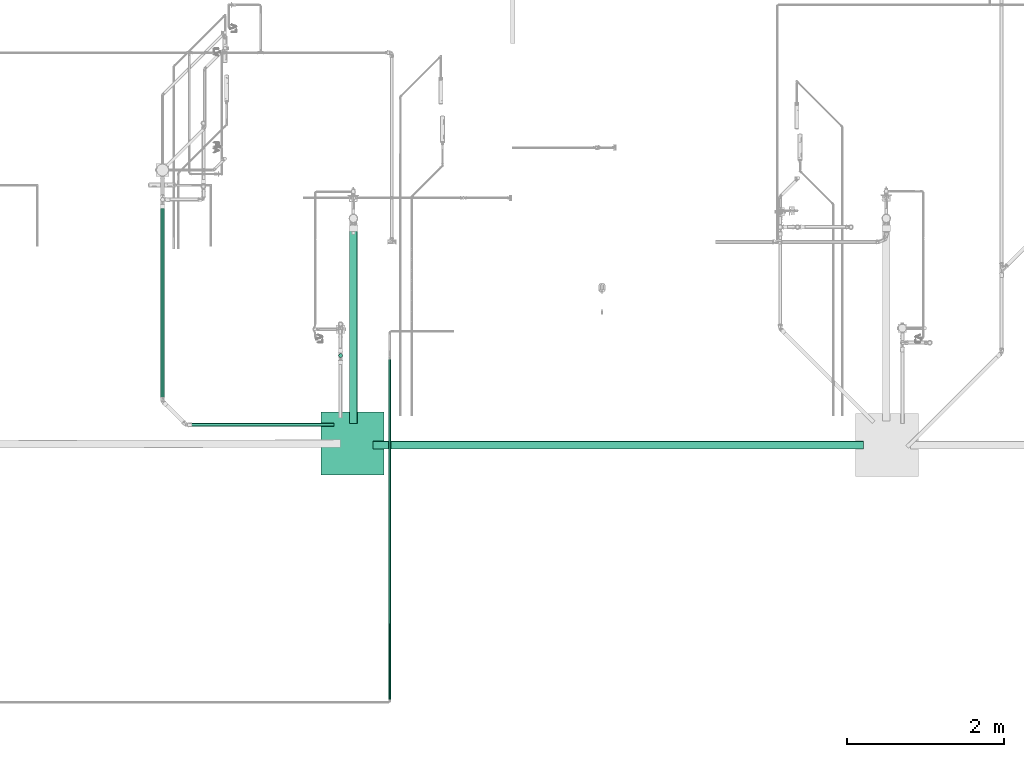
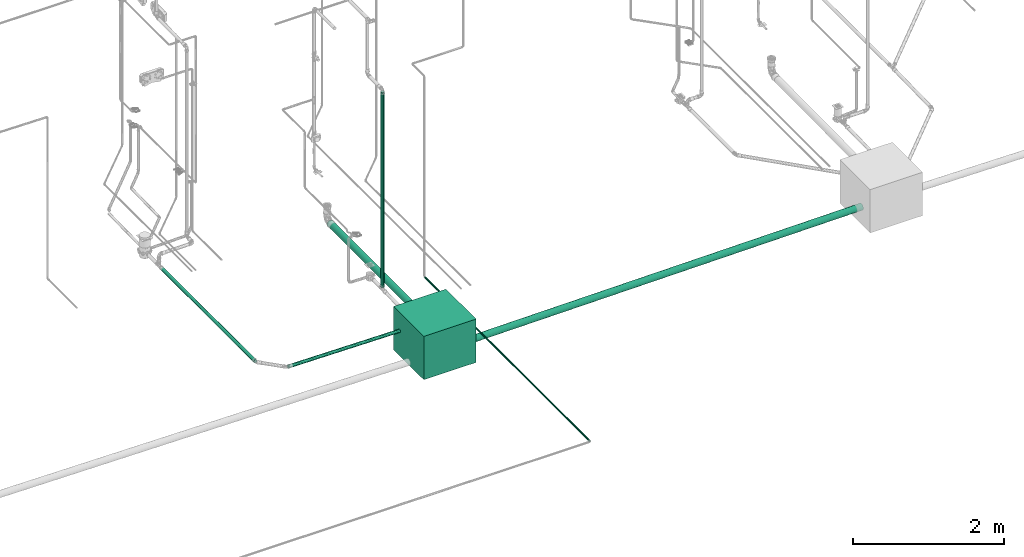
# One storey, part 3 of 589: 6 flow segments, 1 flow terminal.
"""IFC2X3 building model written with IfcOpenShell, lengths in millimetres."""

from ifc_helpers import new_model, entity, si_unit, converted_unit, derived_unit, direction, frame, frame_2d, origin, origin_2d_with_axis, place, context, subcontext, project, spatial, polyline, rectangle, circle, outline, extrude, source, transform, mapped, material, material_list, type_object, type_shapes, element, save


model = new_model("IFC2X3")

# Units and contexts
model_context = context("Model", 3, precision=0.01, world=origin(), true_north=direction((6.123031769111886e-17, 1.0)))
body_context = subcontext(model_context, "Body", "Model", "MODEL_VIEW")
ifc_project = project(units=[si_unit("LENGTHUNIT", "METRE", prefix="MILLI"), si_unit("AREAUNIT", "SQUARE_METRE"), si_unit("VOLUMEUNIT", "CUBIC_METRE"), converted_unit("PLANEANGLEUNIT", "DEGREE", entity("IfcRatioMeasure", 0.017453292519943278), si_unit("PLANEANGLEUNIT", "RADIAN"), dimensions=[0, 0, 0, 0, 0, 0, 0]), si_unit("MASSUNIT", "GRAM", prefix="KILO"), derived_unit("MASSDENSITYUNIT", [(si_unit("MASSUNIT", "GRAM", prefix="KILO"), 1), (si_unit("LENGTHUNIT", "METRE"), -3)]), derived_unit("IONCONCENTRATIONUNIT", [(si_unit("MASSUNIT", "GRAM", prefix="KILO"), 1), (si_unit("LENGTHUNIT", "METRE"), -3)]), derived_unit("MOMENTOFINERTIAUNIT", [(si_unit("LENGTHUNIT", "METRE"), 4)]), si_unit("TIMEUNIT", "SECOND"), si_unit("FREQUENCYUNIT", "HERTZ"), si_unit("THERMODYNAMICTEMPERATUREUNIT", "DEGREE_CELSIUS"), derived_unit("THERMALTRANSMITTANCEUNIT", [(si_unit("MASSUNIT", "GRAM", prefix="KILO"), 1), (si_unit("THERMODYNAMICTEMPERATUREUNIT", "KELVIN"), -1), (si_unit("TIMEUNIT", "SECOND"), -3)]), derived_unit("THERMALCONDUCTANCEUNIT", [(si_unit("MASSUNIT", "GRAM", prefix="KILO"), 1), (si_unit("THERMODYNAMICTEMPERATUREUNIT", "KELVIN"), -1), (si_unit("TIMEUNIT", "SECOND"), -3), (si_unit("LENGTHUNIT", "METRE"), 1)]), derived_unit("VOLUMETRICFLOWRATEUNIT", [(si_unit("LENGTHUNIT", "METRE"), 3), (si_unit("TIMEUNIT", "SECOND"), -1)]), derived_unit("MASSFLOWRATEUNIT", [(si_unit("MASSUNIT", "GRAM", prefix="KILO"), 1), (si_unit("TIMEUNIT", "SECOND"), -1)]), derived_unit("ROTATIONALFREQUENCYUNIT", [(si_unit("TIMEUNIT", "SECOND"), -1)]), si_unit("ELECTRICCURRENTUNIT", "AMPERE"), si_unit("ELECTRICVOLTAGEUNIT", "VOLT"), si_unit("POWERUNIT", "WATT"), si_unit("FORCEUNIT", "NEWTON", prefix="KILO"), si_unit("ILLUMINANCEUNIT", "LUX"), si_unit("LUMINOUSFLUXUNIT", "LUMEN"), si_unit("LUMINOUSINTENSITYUNIT", "CANDELA"), derived_unit("USERDEFINED", [(si_unit("MASSUNIT", "GRAM", prefix="KILO"), -1), (si_unit("LENGTHUNIT", "METRE"), -2), (si_unit("TIMEUNIT", "SECOND"), 3), (si_unit("LUMINOUSFLUXUNIT", "LUMEN"), 1)]), derived_unit("USERDEFINED", [(si_unit("MASSUNIT", "GRAM", prefix="KILO"), 1), (si_unit("TIMEUNIT", "SECOND"), -3), (si_unit("LENGTHUNIT", "METRE"), 3), (si_unit("ELECTRICCURRENTUNIT", "AMPERE"), -2)]), derived_unit("SOUNDPOWERUNIT", [(si_unit("MASSUNIT", "GRAM", prefix="KILO"), 1), (si_unit("TIMEUNIT", "SECOND"), -3), (si_unit("LENGTHUNIT", "METRE"), 2)]), derived_unit("SOUNDPRESSUREUNIT", [(si_unit("MASSUNIT", "GRAM", prefix="KILO"), 1), (si_unit("LENGTHUNIT", "METRE"), -1), (si_unit("TIMEUNIT", "SECOND"), -2)]), derived_unit("LINEARVELOCITYUNIT", [(si_unit("LENGTHUNIT", "METRE"), 1), (si_unit("TIMEUNIT", "SECOND"), -1)]), si_unit("PRESSUREUNIT", "PASCAL"), derived_unit("USERDEFINED", [(si_unit("MASSUNIT", "GRAM", prefix="KILO"), 1), (si_unit("LENGTHUNIT", "METRE"), -2), (si_unit("TIMEUNIT", "SECOND"), -2)]), derived_unit("LINEARFORCEUNIT", [(si_unit("MASSUNIT", "GRAM", prefix="KILO"), 1), (si_unit("TIMEUNIT", "SECOND"), -2)]), derived_unit("PLANARFORCEUNIT", [(si_unit("MASSUNIT", "GRAM", prefix="KILO"), 1), (si_unit("LENGTHUNIT", "METRE"), -1), (si_unit("TIMEUNIT", "SECOND"), -2)]), derived_unit("SPECIFICHEATCAPACITYUNIT", [(si_unit("THERMODYNAMICTEMPERATUREUNIT", "KELVIN"), -1), (si_unit("LENGTHUNIT", "METRE"), 2), (si_unit("TIMEUNIT", "SECOND"), -2)]), derived_unit("HEATINGVALUEUNIT", [(si_unit("LENGTHUNIT", "METRE"), 2), (si_unit("TIMEUNIT", "SECOND"), -2)]), derived_unit("VAPORPERMEABILITYUNIT", [(si_unit("LENGTHUNIT", "METRE"), -1), (si_unit("TIMEUNIT", "SECOND"), 1)]), derived_unit("DYNAMICVISCOSITYUNIT", [(si_unit("MASSUNIT", "GRAM", prefix="KILO"), 1), (si_unit("TIMEUNIT", "SECOND"), -1), (si_unit("LENGTHUNIT", "METRE"), -1)]), derived_unit("THERMALEXPANSIONCOEFFICIENTUNIT", [(si_unit("THERMODYNAMICTEMPERATUREUNIT", "KELVIN"), -1)]), derived_unit("MODULUSOFELASTICITYUNIT", [(si_unit("MASSUNIT", "GRAM", prefix="KILO"), 1), (si_unit("LENGTHUNIT", "METRE"), -1), (si_unit("TIMEUNIT", "SECOND"), -2)]), derived_unit("ISOTHERMALMOISTURECAPACITYUNIT", [(si_unit("LENGTHUNIT", "METRE"), 3), (si_unit("MASSUNIT", "GRAM", prefix="KILO"), -1)]), derived_unit("MOISTUREDIFFUSIVITYUNIT", [(si_unit("TIMEUNIT", "SECOND"), -1), (si_unit("LENGTHUNIT", "METRE"), 2)])], contexts=[model_context])

# Site, building, storey
site_placement = place(None, origin())
site = spatial("IfcSite", under=ifc_project, at=site_placement, Name="Default", CompositionType="ELEMENT")
building_placement = place(site_placement, origin())
building = spatial("IfcBuilding", under=site, at=building_placement, CompositionType="ELEMENT")
storey_placement = place(building_placement, frame((0.0, 0.0, 100.0)))
storey = spatial("IfcBuildingStorey", under=building, at=storey_placement, Name="TÉRREO", CompositionType="ELEMENT", Elevation=100.0)

# Flow segments
pipe_segment_type_1 = type_object("IfcPipeSegmentType", Name="Tipos de tubos:PVC Esgoto Série Normal", PredefinedType="NOTDEFINED")
flow_segment_1_placement = place(storey_placement, origin())
element("IfcFlowSegment", 1, at=flow_segment_1_placement, inside=storey, type_object=pipe_segment_type_1, Name="Tipos de tubos:PVC Esgoto Série Normal", ObjectType="Tipos de tubos:PVC Esgoto Série Normal", context=body_context, shape_type="SweptSolid", body=[
    extrude(circle(Radius=50.0, at=frame_2d((0.0, -5.408006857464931e-15), x_axis=(1.0, 0.0))), frame((2267.440530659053, -11197.531283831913, -612.3274411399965), z_axis=(0.999950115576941, 0.0, 0.009988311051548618), x_axis=(0.0, 1.0, 0.0)), (0.0, 0.0, 1.0), 6240.038062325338),
])
flow_segment_2_placement = place(storey_placement, origin())
element("IfcFlowSegment", 2, at=flow_segment_2_placement, inside=storey, type_object=pipe_segment_type_1, Name="Tipos de tubos:PVC Esgoto Série Normal", ObjectType="Tipos de tubos:PVC Esgoto Série Normal", context=body_context, shape_type="SweptSolid", body=[
    extrude(circle(Radius=50.0, at=frame_2d((2.70716782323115e-13, -3.3839179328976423e-14), x_axis=(1.0, 0.0))), frame((2018.1304460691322, -10918.899506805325, -260.1456928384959), z_axis=(-3.3101656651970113e-06, 0.999987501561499, 0.0049996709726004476), x_axis=(-1.0, -3.3102070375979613e-06, 0.0)), (0.0, 0.0, 1.0), 2524.295897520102),
])
flow_segment_3_placement = place(storey_placement, origin())
element("IfcFlowSegment", 3, at=flow_segment_3_placement, inside=storey, type_object=pipe_segment_type_1, Name="Tipos de tubos:PVC Esgoto Série Normal", ObjectType="Tipos de tubos:PVC Esgoto Série Normal", context=body_context, shape_type="SweptSolid", body=[
    extrude(circle(Radius=25.0, at=origin_2d_with_axis()), frame((-410.335686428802, -10622.684898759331, -273.1527036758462), z_axis=(0.0, 1.0, 0.0), x_axis=(-1.0, 0.0, 0.0)), (0.0, 0.0, 1.0), 2463.4823060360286),
])
flow_segment_4_placement = place(storey_placement, origin())
element("IfcFlowSegment", 4, at=flow_segment_4_placement, inside=storey, type_object=pipe_segment_type_1, Name="Tipos de tubos:PVC Esgoto Série Normal", ObjectType="Tipos de tubos:PVC Esgoto Série Normal", context=body_context, shape_type="SweptSolid", body=[
    extrude(circle(Radius=25.0, at=origin_2d_with_axis()), frame((1855.1564123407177, -10057.272915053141, -203.9067141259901), z_axis=(0.0, 0.0, 1.0), x_axis=(-1.0, 0.0, 0.0)), (0.0, 0.0, 1.0), 3149.658700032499),
])
flow_segment_5_placement = place(storey_placement, origin())
element("IfcFlowSegment", 5, at=flow_segment_5_placement, inside=storey, type_object=pipe_segment_type_1, Name="Tipos de tubos:PVC Esgoto Série Normal", ObjectType="Tipos de tubos:PVC Esgoto Série Normal", context=body_context, shape_type="SweptSolid", body=[
    extrude(circle(Radius=25.0, at=frame_2d((0.0, -3.400709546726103e-14), x_axis=(1.0, 0.0))), frame((-95.02673619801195, -10937.991585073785, -277.8650206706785), z_axis=(0.9999500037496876, 0.0, -0.009999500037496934), x_axis=(0.0, -1.0, 0.0)), (0.0, 0.0, 1.0), 1864.0310781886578),
])
pipe_segment_type_2 = type_object("IfcPipeSegmentType", Name="Tipos de tubos:PVC Marrom Soldável", PredefinedType="NOTDEFINED")
flow_segment_6_placement = place(storey_placement, origin())
element("IfcFlowSegment", 6, at=flow_segment_6_placement, inside=storey, type_object=pipe_segment_type_2, Name="Tipos de tubos:PVC Marrom Soldável", ObjectType="Tipos de tubos:PVC Marrom Soldável", context=body_context, shape_type="SweptSolid", body=[
    extrude(circle(Radius=12.5, at=origin_2d_with_axis()), frame((2482.5321732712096, -14450.927874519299, -250.0), z_axis=(0.0, 1.0, 0.0), x_axis=(-1.0, 0.0, 0.0)), (0.0, 0.0, 1.0), 4362.996590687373),
])

# Flow terminal
ifc_material_1 = material(Name="<Unnamed>")
ifc_material_2 = material(Name="Tijolo, Comum")
ifc_material_3 = material(Name=".CONCRETO")
ifc_material_list = material_list([ifc_material_1, ifc_material_2, ifc_material_3])
distribution_element_type = type_object("IfcDistributionElementType", Name="Caixa em Alvenaria_Rodrigo MEP:Caixa de Inspeçao de Esgoto 60x60cm - CI", material=ifc_material_list)
shared_shape = source(origin(), body_context, "Body", "SweptSolid", [
    extrude(circle(Radius=50.0, at=frame_2d((1.6919798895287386e-14, -2.0303758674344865e-13), x_axis=(1.0, 0.0))), frame((297.0, -150.0, -550.0), z_axis=(1.0, 0.0, 0.0), x_axis=(0.0, -1.0, 0.0)), (0.0, 0.0, 1.0), 2.9999999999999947),
    extrude(circle(Radius=50.0, at=frame_2d((0.0, -2.0303758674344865e-13), x_axis=(1.0, 0.0))), frame((297.0, 150.0, -550.0), z_axis=(1.0, 0.0, 0.0), x_axis=(0.0, -1.0, 0.0)), (0.0, 0.0, 1.0), 2.9999999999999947),
    extrude(circle(Radius=50.0, at=frame_2d((0.0, -6.767919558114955e-14), x_axis=(1.0, 0.0))), frame((-300.0, 136.27378055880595, -550.0), z_axis=(1.0, 0.0, 0.0), x_axis=(0.0, 1.0, 0.0)), (0.0, 0.0, 1.0), 2.9999999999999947),
    extrude(circle(Radius=50.0, at=frame_2d((-1.6919798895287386e-14, -6.767919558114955e-14), x_axis=(1.0, 0.0))), frame((-300.0, -150.0, -550.0), z_axis=(1.0, 0.0, 0.0), x_axis=(0.0, 1.0, 0.0)), (0.0, 0.0, 1.0), 2.9999999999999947),
    extrude(circle(Radius=50.0, at=frame_2d((-1.6919798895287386e-14, -2.707167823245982e-13), x_axis=(1.0, 0.0))), frame((150.0, 297.0, -550.0), z_axis=(0.0, 1.0, 0.0), x_axis=(1.0, 0.0, 0.0)), (0.0, 0.0, 1.0), 2.9999999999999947),
    extrude(circle(Radius=50.0, at=frame_2d((0.0, -2.707167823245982e-13), x_axis=(1.0, 0.0))), frame((-150.0, 297.0, -550.0), z_axis=(0.0, 1.0, 0.0), x_axis=(1.0, 0.0, 0.0)), (0.0, 0.0, 1.0), 2.9999999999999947),
    extrude(circle(Radius=50.0, at=frame_2d((-1.307310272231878e-17, -2.707167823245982e-13), x_axis=(1.0, 0.0))), frame((297.0, 0.0, -550.0), z_axis=(1.0, 0.0, 0.0), x_axis=(0.0, -1.0, 0.0)), (0.0, 0.0, 1.0), 2.9999999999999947),
    extrude(circle(Radius=50.0, at=frame_2d((1.9003610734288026e-15, -6.767919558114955e-14), x_axis=(1.0, 0.0))), frame((-300.0, 0.0, -550.0), z_axis=(1.0, 0.0, 0.0), x_axis=(0.0, 1.0, 0.0)), (0.0, 0.0, 1.0), 2.9999999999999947),
    extrude(circle(Radius=50.0, at=frame_2d((-1.9105340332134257e-15, -2.707167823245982e-13), x_axis=(1.0, 0.0))), frame((0.0, 297.0, -550.0), z_axis=(0.0, 1.0, 0.0), x_axis=(1.0, 0.0, 0.0)), (0.0, 0.0, 1.0), 2.9999999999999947),
    extrude(outline(polyline([(-400.0, -400.0), (400.0, -400.0), (400.0, 400.0), (-400.0, 400.0), (-400.0, -400.0)]), holes=[polyline([(-300.0, 300.0), (300.0, 300.0), (300.0, -300.0), (-300.0, -300.0), (-300.0, 300.0)])]), frame((0.0, 0.0, -600.0)), (0.0, 0.0, 1.0), 599.9999999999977),
    extrude(rectangle(XDim=798.0000000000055, YDim=798.0, at=origin_2d_with_axis()), frame((0.0, 0.0, -700.0), z_axis=(0.0, 0.0, 1.0), x_axis=(-1.0, 0.0, 0.0)), (0.0, 0.0, 1.0), 99.99999999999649),
    extrude(circle(Radius=50.0, at=frame_2d((0.0, -2.707167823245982e-13), x_axis=(1.0, 0.0))), frame((0.0, -300.0, -550.0), z_axis=(0.0, 1.0, 0.0), x_axis=(1.0, 0.0, 0.0)), (0.0, 0.0, 1.0), 0.9999999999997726),
    extrude(rectangle(XDim=599.9999999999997, YDim=599.9999999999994, at=origin_2d_with_axis()), frame((0.0, 0.0, -50.51158969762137), z_axis=(0.0, 0.0, 1.0), x_axis=(0.0, 1.0, 0.0)), (0.0, 0.0, 1.0), 50.51158969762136),
])
type_shapes(distribution_element_type, [shared_shape])
flow_terminal_placement = place(storey_placement, frame((2007.9287825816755, -11177.065264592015, 0.0), z_axis=(0.0, 0.0, 1.0), x_axis=(3.3102070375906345e-06, -1.0, 0.0)))
element("IfcFlowTerminal", 7, at=flow_terminal_placement, inside=storey, type_object=distribution_element_type, material=ifc_material_list, Name="Caixa em Alvenaria_Rodrigo MEP:Caixa de Inspeçao de Esgoto 60x60cm - CI", ObjectType="Caixa em Alvenaria_Rodrigo MEP:Caixa de Inspeçao de Esgoto 60x60cm - CI", context=body_context, shape_type="MappedRepresentation", body=[
    mapped(shared_shape, transform((0.0, 0.0, 0.0), scale=1.0)),
])

save(model, "model.ifc")
